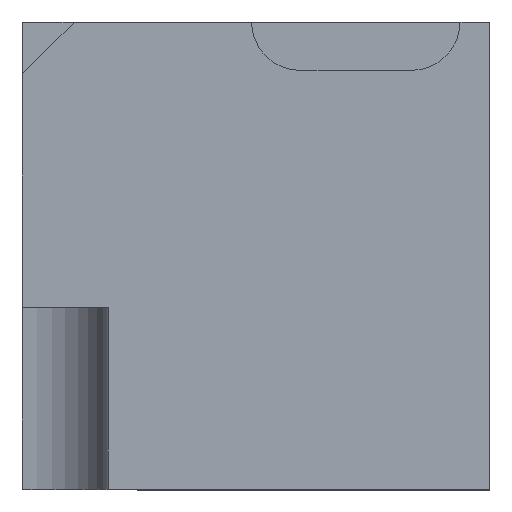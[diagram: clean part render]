
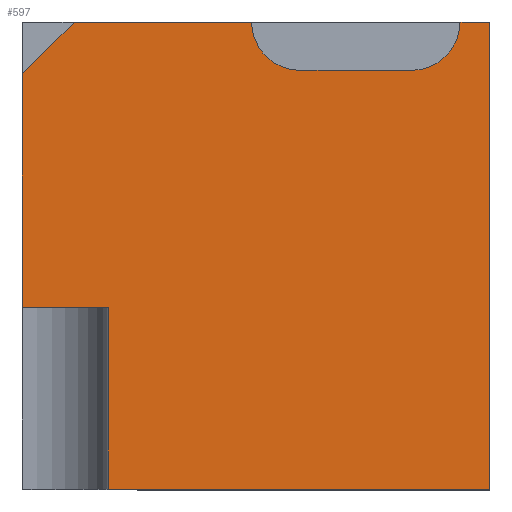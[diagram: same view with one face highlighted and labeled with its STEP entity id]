
A CAD part, top view. The second image highlights one B-rep face of the part: STEP entity #597.
In plain terms, the highlighted planar face has unit normal (0, 0, 1).
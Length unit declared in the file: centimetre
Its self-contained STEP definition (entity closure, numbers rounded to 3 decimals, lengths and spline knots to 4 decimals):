
#6 = EDGE_CURVE ( 'NONE', #528, #8, #591, .T. ) ;
#8 = VERTEX_POINT ( 'NONE', #315 ) ;
#18 = LINE ( 'NONE', #508, #792 ) ;
#26 = CARTESIAN_POINT ( 'NONE',  ( 833.2183, 1000., 1000. ) ) ;
#35 = DIRECTION ( 'NONE',  ( 1., 0., 0. ) ) ;
#56 = CARTESIAN_POINT ( 'NONE',  ( 1000., 1000., 1000. ) ) ;
#64 = CARTESIAN_POINT ( 'NONE',  ( 1000., 1000., 1000. ) ) ;
#81 = LINE ( 'NONE', #812, #555 ) ;
#82 = ORIENTED_EDGE ( 'NONE', *, *, #257, .F. ) ;
#97 = DIRECTION ( 'NONE',  ( 0.707, 0.707, 0. ) ) ;
#103 = VERTEX_POINT ( 'NONE', #514 ) ;
#110 = VERTEX_POINT ( 'NONE', #361 ) ;
#113 = EDGE_CURVE ( 'NONE', #475, #350, #18, .T. ) ;
#130 = LINE ( 'NONE', #471, #294 ) ;
#138 = LINE ( 'NONE', #56, #649 ) ;
#146 = AXIS2_PLACEMENT_3D ( 'NONE', #858, #854, #807 ) ;
#158 = VERTEX_POINT ( 'NONE', #718 ) ;
#177 = CIRCLE ( 'NONE', #146, 103.3522 ) ;
#199 = DIRECTION ( 'NONE',  ( 1., 0., 0. ) ) ;
#216 = VECTOR ( 'NONE', #640, 100. ) ;
#218 = EDGE_CURVE ( 'NONE', #8, #158, #757, .T. ) ;
#226 = DIRECTION ( 'NONE',  ( 0., 0., 1. ) ) ;
#242 = DIRECTION ( 'NONE',  ( 1., 0., 0. ) ) ;
#245 = EDGE_CURVE ( 'NONE', #475, #103, #81, .T. ) ;
#249 = ORIENTED_EDGE ( 'NONE', *, *, #645, .T. ) ;
#251 = EDGE_CURVE ( 'NONE', #838, #110, #873, .T. ) ;
#257 = EDGE_CURVE ( 'NONE', #828, #528, #177, .T. ) ;
#270 = CARTESIAN_POINT ( 'NONE',  ( 593.9183, 896.6477, 1000. ) ) ;
#271 = CARTESIAN_POINT ( 'NONE',  ( 490.5661, 1000., 1000. ) ) ;
#274 = EDGE_LOOP ( 'NONE', ( #786, #628, #432, #695, #277, #298, #249, #662, #434, #82, #890 ) ) ;
#277 = ORIENTED_EDGE ( 'NONE', *, *, #251, .T. ) ;
#294 = VECTOR ( 'NONE', #330, 100. ) ;
#298 = ORIENTED_EDGE ( 'NONE', *, *, #494, .T. ) ;
#315 = CARTESIAN_POINT ( 'NONE',  ( 833.2183, 896.6477, 1000. ) ) ;
#330 = DIRECTION ( 'NONE',  ( 0., 1., 0. ) ) ;
#347 = CARTESIAN_POINT ( 'NONE',  ( 0., 889.217, 1000. ) ) ;
#350 = VERTEX_POINT ( 'NONE', #826 ) ;
#361 = CARTESIAN_POINT ( 'NONE',  ( 1000., 0., 1000. ) ) ;
#364 = DIRECTION ( 'NONE',  ( -1., 0., 0. ) ) ;
#373 = EDGE_CURVE ( 'NONE', #828, #350, #449, .T. ) ;
#378 = LINE ( 'NONE', #576, #619 ) ;
#389 = EDGE_CURVE ( 'NONE', #103, #783, #536, .T. ) ;
#403 = DIRECTION ( 'NONE',  ( 0., 0., 1. ) ) ;
#419 = AXIS2_PLACEMENT_3D ( 'NONE', #26, #226, #714 ) ;
#432 = ORIENTED_EDGE ( 'NONE', *, *, #389, .T. ) ;
#434 = ORIENTED_EDGE ( 'NONE', *, *, #6, .F. ) ;
#444 = DIRECTION ( 'NONE',  ( 0., -1., 0. ) ) ;
#449 = LINE ( 'NONE', #665, #617 ) ;
#470 = DIRECTION ( 'NONE',  ( 0., 1., 0. ) ) ;
#471 = CARTESIAN_POINT ( 'NONE',  ( 184.0898, 389.2913, 1000. ) ) ;
#475 = VERTEX_POINT ( 'NONE', #347 ) ;
#490 = CARTESIAN_POINT ( 'NONE',  ( 0., 0., 1000. ) ) ;
#494 = EDGE_CURVE ( 'NONE', #110, #793, #138, .T. ) ;
#508 = CARTESIAN_POINT ( 'NONE',  ( 0., 889.217, 1000. ) ) ;
#514 = CARTESIAN_POINT ( 'NONE',  ( 0., 389.2913, 1000. ) ) ;
#528 = VERTEX_POINT ( 'NONE', #270 ) ;
#536 = LINE ( 'NONE', #673, #741 ) ;
#540 = FACE_OUTER_BOUND ( 'NONE', #274, .T. ) ;
#555 = VECTOR ( 'NONE', #444, 100. ) ;
#556 = AXIS2_PLACEMENT_3D ( 'NONE', #842, #403, #199 ) ;
#576 = CARTESIAN_POINT ( 'NONE',  ( 0., 1000., 1000. ) ) ;
#591 = LINE ( 'NONE', #721, #904 ) ;
#597 = ADVANCED_FACE ( 'NONE', ( #540 ), #762, .T. ) ;
#617 = VECTOR ( 'NONE', #739, 100. ) ;
#619 = VECTOR ( 'NONE', #364, 100. ) ;
#628 = ORIENTED_EDGE ( 'NONE', *, *, #245, .T. ) ;
#640 = DIRECTION ( 'NONE',  ( 1., 0., 0. ) ) ;
#645 = EDGE_CURVE ( 'NONE', #793, #158, #378, .T. ) ;
#649 = VECTOR ( 'NONE', #470, 100. ) ;
#662 = ORIENTED_EDGE ( 'NONE', *, *, #218, .F. ) ;
#665 = CARTESIAN_POINT ( 'NONE',  ( 0., 1000., 1000. ) ) ;
#673 = CARTESIAN_POINT ( 'NONE',  ( 0., 389.2913, 1000. ) ) ;
#691 = CARTESIAN_POINT ( 'NONE',  ( 184.0898, 0., 1000. ) ) ;
#695 = ORIENTED_EDGE ( 'NONE', *, *, #911, .F. ) ;
#714 = DIRECTION ( 'NONE',  ( 1., 0., 0. ) ) ;
#718 = CARTESIAN_POINT ( 'NONE',  ( 936.5705, 1000., 1000. ) ) ;
#721 = CARTESIAN_POINT ( 'NONE',  ( 593.9183, 896.6477, 1000. ) ) ;
#739 = DIRECTION ( 'NONE',  ( -1., 0., 0. ) ) ;
#741 = VECTOR ( 'NONE', #35, 100. ) ;
#757 = CIRCLE ( 'NONE', #419, 103.3522 ) ;
#762 = PLANE ( 'NONE',  #556 ) ;
#764 = CARTESIAN_POINT ( 'NONE',  ( 184.0898, 389.2913, 1000. ) ) ;
#783 = VERTEX_POINT ( 'NONE', #764 ) ;
#786 = ORIENTED_EDGE ( 'NONE', *, *, #113, .F. ) ;
#792 = VECTOR ( 'NONE', #97, 100. ) ;
#793 = VERTEX_POINT ( 'NONE', #64 ) ;
#807 = DIRECTION ( 'NONE',  ( 1., 0., 0. ) ) ;
#812 = CARTESIAN_POINT ( 'NONE',  ( 0., 1000., 1000. ) ) ;
#826 = CARTESIAN_POINT ( 'NONE',  ( 110.783, 1000., 1000. ) ) ;
#828 = VERTEX_POINT ( 'NONE', #271 ) ;
#838 = VERTEX_POINT ( 'NONE', #691 ) ;
#842 = CARTESIAN_POINT ( 'NONE',  ( 0., 0., 1000. ) ) ;
#854 = DIRECTION ( 'NONE',  ( 0., 0., 1. ) ) ;
#858 = CARTESIAN_POINT ( 'NONE',  ( 593.9183, 1000., 1000. ) ) ;
#873 = LINE ( 'NONE', #490, #216 ) ;
#890 = ORIENTED_EDGE ( 'NONE', *, *, #373, .T. ) ;
#904 = VECTOR ( 'NONE', #242, 100. ) ;
#911 = EDGE_CURVE ( 'NONE', #838, #783, #130, .T. ) ;
